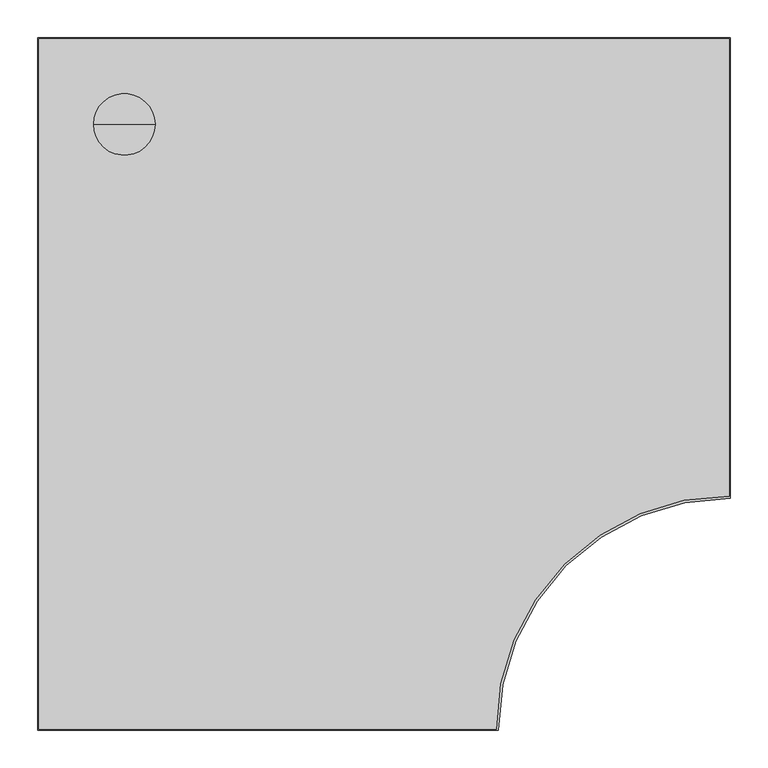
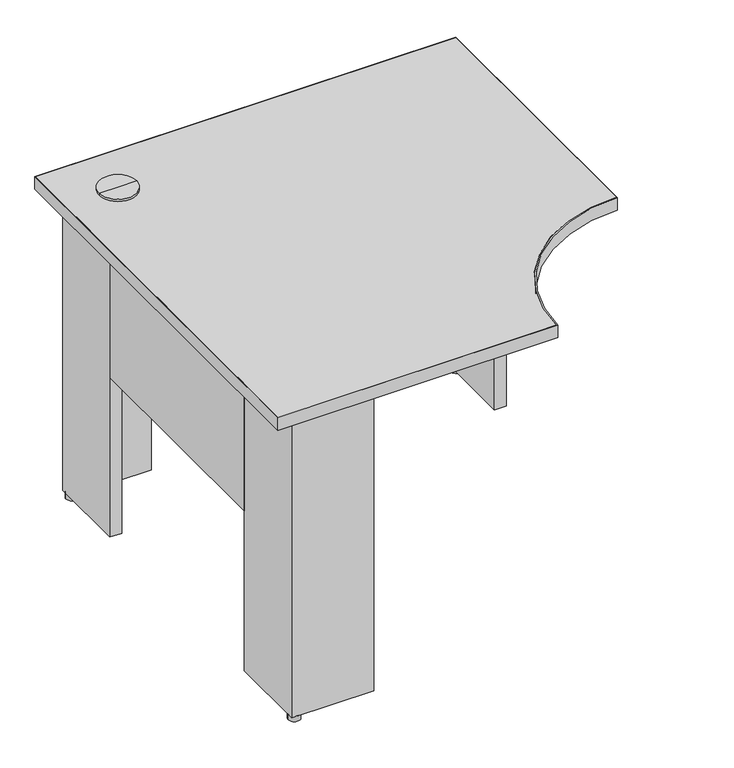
"""IFC4 building model written with IfcOpenShell, lengths in millimetres: furniture geometry, Steelcase - Kick Freestanding - Desk - Curve Corner - Partial Height Modesty Panel : 24D x 36W - Two Clear Access Support - LPL."""

from ifc_helpers import new_model, si_unit, point, frame, frame_2d, origin, origin_with_axes, place, context, project, spatial, polyline, circle_curve, trimmed, segment, composite_curve, outline, extrude, source, transform, mapped, element, save
from ifc_brep_helpers import plane_surface, cylinder_surface, advanced_brep


def furniture_853da857(model_context):
    return source(origin(), model_context, "Body", "SolidModel", [
        extrude(outline(polyline([(721.6393822, -63.5), (721.6393822, -38.1), (899.4393579, -38.1), (899.4393579, -215.8999939), (873.5313463, -215.8999939), (873.5313463, -63.5), (721.6393822, -63.5)])), frame((0.0, 0.0, 12.446), z_axis=(0.0, 0.0, 1.0), x_axis=(1.0, 0.0, 0.0)), (0.0, 0.0, 1.0), 682.498),
        extrude(outline(polyline([(215.8999939, -63.5), (63.5, -63.5), (63.5, -215.8999939), (38.1, -215.8999939), (38.1, -38.1), (215.8999939, -38.1), (215.8999939, -63.5)])), frame((0.0, 0.0, 12.446), z_axis=(0.0, 0.0, 1.0), x_axis=(1.0, 0.0, 0.0)), (0.0, 0.0, 1.0), 682.498),
        advanced_brep(
        [(114.3, -114.3, 728.98), (154.94, -114.3, 728.98), (73.66, -114.3, 728.98), (76.1699693, -114.3, 694.944), (152.4300307, -114.3, 694.944), (114.3, -114.3, 694.944), (76.1699693, -114.3, 723.9), (152.4300307, -114.3, 723.9), (73.66, -114.3, 723.9), (154.94, -114.3, 723.9)],
        [
            (0, 1),
            (1, 2, circle_curve(frame((114.3, -114.3, 728.98), z_axis=(0.0, 0.0, 1.0), x_axis=(1.0, 0.0, 0.0)), 40.64)),
            (2, 0),
            (2, 1, circle_curve(frame((114.3, -114.3, 728.98), z_axis=(0.0, 0.0, 1.0), x_axis=(1.0, 0.0, 0.0)), 40.64)),
            (3, 4, circle_curve(frame((114.3, -114.3, 694.944), z_axis=(0.0, 0.0, -1.0), x_axis=(1.0, 0.0, 0.0)), 38.1300307)),
            (4, 5),
            (5, 3),
            (4, 3, circle_curve(frame((114.3, -114.3, 694.944), z_axis=(0.0, 0.0, -1.0), x_axis=(1.0, 0.0, 0.0)), 38.1300307)),
            (6, 7, circle_curve(frame((114.3, -114.3, 723.9), z_axis=(0.0, 0.0, -1.0), x_axis=(1.0, 0.0, 0.0)), 38.1300307)),
            (7, 4),
            (3, 6),
            (7, 6, circle_curve(frame((114.3, -114.3, 723.9), z_axis=(0.0, 0.0, -1.0), x_axis=(1.0, 0.0, 0.0)), 38.1300307)),
            (8, 9, circle_curve(frame((114.3, -114.3, 723.9), z_axis=(0.0, 0.0, -1.0), x_axis=(1.0, 0.0, 0.0)), 40.64)),
            (9, 7),
            (6, 8),
            (9, 8, circle_curve(frame((114.3, -114.3, 723.9), z_axis=(0.0, 0.0, -1.0), x_axis=(1.0, 0.0, 0.0)), 40.64)),
            (1, 9),
            (8, 2),
        ],
        [
            plane_surface(frame((114.3, -114.3, 728.98), z_axis=(0.0, 0.0, 1.0), x_axis=(1.0, 0.0, 0.0))),
            plane_surface(frame((114.3, -114.3, 694.944), z_axis=(0.0, 0.0, -1.0), x_axis=(1.0, 0.0, 0.0))),
            cylinder_surface(frame((114.3, -114.3, 728.98), z_axis=(0.0, 0.0, 1.0), x_axis=(1.0, 0.0, 0.0)), 38.1300307),
            plane_surface(frame((114.3, -114.3, 723.9), z_axis=(0.0, 0.0, -1.0), x_axis=(1.0, 0.0, 0.0))),
            cylinder_surface(frame((114.3, -114.3, 728.98), z_axis=(0.0, 0.0, 1.0), x_axis=(1.0, 0.0, 0.0)), 40.64),
        ],
        [
            (0, [[1, 2, 3]]),
            (0, [[-3, 4, -1]]),
            (1, [[5, 6, 7]]),
            (1, [[8, -7, -6]]),
            (2, [[9, 10, -5, 11]]),
            (2, [[12, -11, -8, -10]]),
            (3, [[13, 14, -9, 15]]),
            (3, [[16, -15, -12, -14]]),
            (4, [[-2, 17, -13, 18]]),
            (4, [[-4, -18, -16, -17]]),
        ],
    ),
        extrude(outline(composite_curve([segment(trimmed(circle_curve(frame_2d((50.8, -50.8)), 12.7), [point((38.1, -50.8))], [point((63.5, -50.8))], False, "CARTESIAN"), True, "CONTINUOUS"), segment(trimmed(circle_curve(frame_2d((50.8, -50.8)), 12.7), [point((63.5, -50.8))], [point((38.1, -50.8))], False, "CARTESIAN"), True, "CONTINUOUS")], self_intersect=False)), origin_with_axes(), (0.0, 0.0, 1.0), 12.446),
        extrude(outline(composite_curve([segment(trimmed(circle_curve(frame_2d((50.8, -887.7300073)), 12.7484998), [point((38.0515002, -887.7300073))], [point((63.5484998, -887.7300073))], False, "CARTESIAN"), True, "CONTINUOUS"), segment(trimmed(circle_curve(frame_2d((50.8, -887.7300073)), 12.7484998), [point((63.5484998, -887.7300073))], [point((38.0515002, -887.7300073))], False, "CARTESIAN"), True, "CONTINUOUS")], self_intersect=False)), origin_with_axes(), (0.0, 0.0, 1.0), 12.446),
        extrude(outline(composite_curve([segment(trimmed(circle_curve(frame_2d((886.4853521, -50.8)), 12.7), [point((873.7853521, -50.8))], [point((899.1853521, -50.8))], False, "CARTESIAN"), True, "CONTINUOUS"), segment(trimmed(circle_curve(frame_2d((886.4853521, -50.8)), 12.7), [point((899.1853521, -50.8))], [point((873.7853521, -50.8))], False, "CARTESIAN"), True, "CONTINUOUS")], self_intersect=False)), origin_with_axes(), (0.0, 0.0, 1.0), 12.446),
        extrude(outline(polyline([(63.5, -215.8999939), (63.5, -722.6300194), (38.1, -722.6300194), (38.1, -215.8999939), (63.5, -215.8999939)])), frame((0.0, 0.0, 379.476), z_axis=(0.0, 0.0, 1.0), x_axis=(1.0, 0.0, 0.0)), (0.0, 0.0, 1.0), 315.468),
        extrude(outline(polyline([(721.6393822, -38.1), (721.6393822, -63.5), (215.8999939, -63.5), (215.8999939, -38.1), (721.6393822, -38.1)])), frame((0.0, 0.0, 379.476), z_axis=(0.0, 0.0, 1.0), x_axis=(1.0, 0.0, 0.0)), (0.0, 0.0, 1.0), 315.468),
        extrude(outline(polyline([(215.8999939, -875.0300194), (215.8999939, -900.4299952), (38.1, -900.4299952), (38.1, -722.6300194), (63.5, -722.6300194), (63.5, -875.0300194), (215.8999939, -875.0300194)])), frame((0.0, 0.0, 12.446), z_axis=(0.0, 0.0, 1.0), x_axis=(1.0, 0.0, 0.0)), (0.0, 0.0, 1.0), 682.498),
        extrude(outline(composite_curve([segment(polyline([(0.9906, -913.4093628), (0.9906, -0.9906), (913.4093628, -0.9906), (913.4093628, -605.3354109)]), True, "CONTINUOUS"), segment(trimmed(circle_curve(frame_2d((912.1393458, -912.1393458)), 306.8065636), [point((913.4093628, -605.3354109))], [point((605.3354109, -913.4093628))], True, "CARTESIAN"), True, "CONTINUOUS"), segment(polyline([(605.3354109, -913.4093628), (0.9906, -913.4093628)]), True, "CONTINUOUS")], self_intersect=False)), frame((0.0, 0.0, 694.944), z_axis=(0.0, 0.0, 1.0), x_axis=(1.0, 0.0, 0.0)), (0.0, 0.0, 1.0), 28.956),
        extrude(outline(composite_curve([segment(polyline([(914.4, 0.0), (914.4, -608.332629)]), True, "CONTINUOUS"), segment(trimmed(circle_curve(frame_2d((913.129983, -913.129983)), 304.8), [point((914.4, -608.332629))], [point((608.332629, -914.4))], True, "CARTESIAN"), True, "CONTINUOUS"), segment(polyline([(608.332629, -914.4), (0.0, -914.4), (0.0, 0.0), (914.4, 0.0)]), True, "CONTINUOUS")], self_intersect=False), holes=[composite_curve([segment(polyline([(913.4093628, -0.9906), (0.9906, -0.9906), (0.9906, -913.4093628), (605.3354109, -913.4093628)]), True, "CONTINUOUS"), segment(trimmed(circle_curve(frame_2d((912.1393458, -912.1393458)), 306.8065636), [point((605.3354109, -913.4093628))], [point((913.4093628, -605.3354109))], False, "CARTESIAN"), True, "CONTINUOUS"), segment(polyline([(913.4093628, -605.3354109), (913.4093628, -0.9906)]), True, "CONTINUOUS")], self_intersect=False)]), frame((0.0, 0.0, 694.944), z_axis=(0.0, 0.0, 1.0), x_axis=(1.0, 0.0, 0.0)), (0.0, 0.0, 1.0), 28.956),
    ])


if __name__ == "__main__":
    model = new_model("IFC4")
    model_context = context("Model", 3, world=origin())
    ifc_project = project(units=[si_unit("LENGTHUNIT", "METRE", prefix="MILLI")], contexts=[model_context])
    site = spatial("IfcSite", under=ifc_project)
    building = spatial("IfcBuilding", under=site)
    placement = place(None, origin())
    furniture_shape = furniture_853da857(model_context)
    element("IfcFurniture", 1, ObjectType="Steelcase - Kick Freestanding - Desk - Curve Corner - Partial Height Modesty Panel : 24D x 36W - Two Clear Access Support - LPL", at=placement, inside=building, context=model_context, shape_type="MappedRepresentation", body=[
        mapped(furniture_shape, transform((0.0, 0.0, 0.0), x_axis=(1.0, 0.0, 0.0), y_axis=(0.0, 1.0, 0.0), z_axis=(0.0, 0.0, 1.0))),
    ])
    save(model, "model.ifc")
